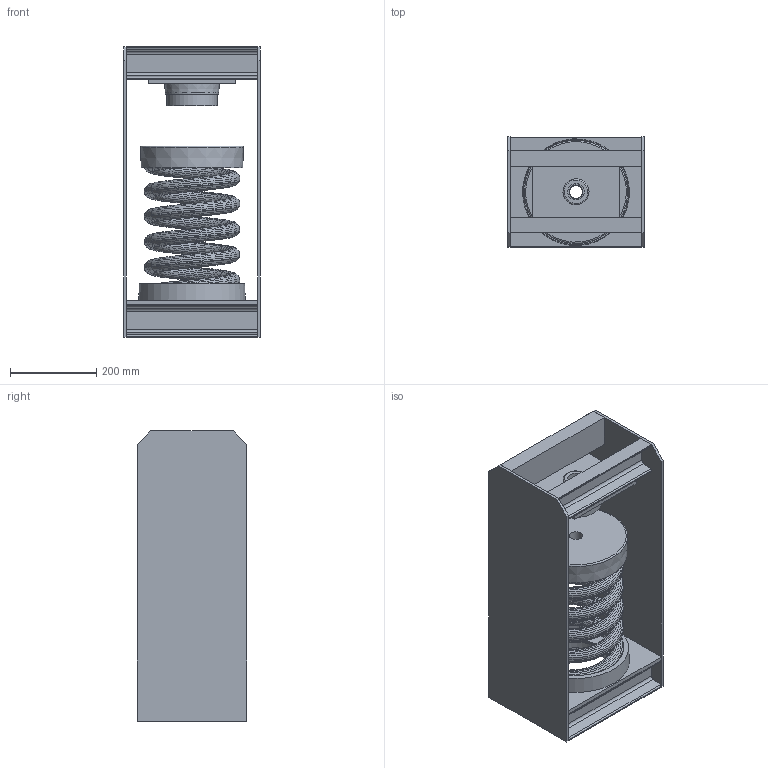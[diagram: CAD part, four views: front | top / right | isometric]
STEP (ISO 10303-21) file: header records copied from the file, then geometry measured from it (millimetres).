
FILE_DESCRIPTION(/* description */ (''),/* implementation_level */ '2;1');
FILE_NAME(/* name */ 'C:\001_Work\Designs\HANGER BOXES\30N 100 SERIES\30N-162-164, 187-188\30N-164.stp',/* time_stamp */ '2015-06-01T14:00:45-04:00',/* author */ ('rramoutar'),/* organization */ ('Mason Industries Inc.'),/* preprocessor_version */ 'ST-DEVELOPER v15.2',/* originating_system */ 'Autodesk Inventor 2014',/* authorisation */ '');
FILE_SCHEMA (('AUTOMOTIVE_DESIGN { 1 0 10303 214 3 1 1 }'));
Products named in the file (1): 30N-164
Bounding box: 317.5 x 254 x 673.1 mm (x, y, z)
Volume: 6246741.2 mm3; surface area: 2389955.9 mm2
Topology: 15 solids, 15 shells, 752 faces, 1581 edges, 871 vertices
Faces by surface type: bspline 526, plane 166, cylinder 43, cone 15, torus 2
Full cylindrical faces by diameter (mm): 30.162 x1, 31.75 x1, 38.1 x2, 47.625 x4, 60.325 x1, 107.95 x2, 117.475 x1, 122.237 x2, 146.05 x1, 150.812 x1, 152.4 x2, 155.575 x2, 220.662 x1, 225.425 x2, 227.012 x1
Entity records: 40979 total; most frequent: CARTESIAN_POINT 28287, ORIENTED_EDGE 3100, EDGE_CURVE 1550, B_SPLINE_CURVE_WITH_KNOTS 1060, DIRECTION 1017, VERTEX_POINT 869, EDGE_LOOP 811, STYLED_ITEM 767
